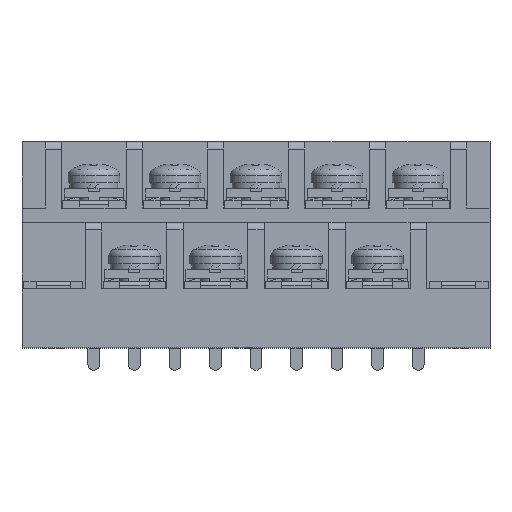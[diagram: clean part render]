
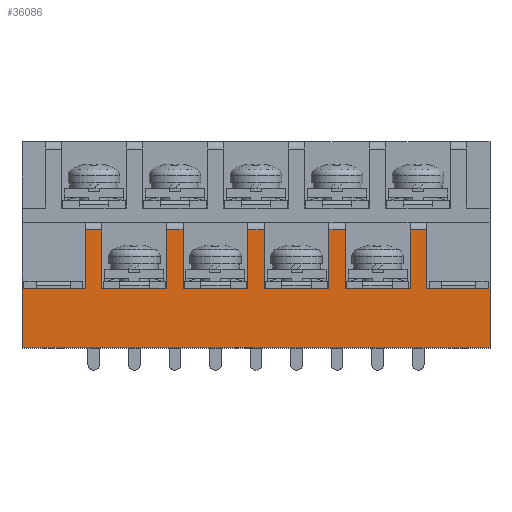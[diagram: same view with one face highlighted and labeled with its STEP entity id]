
A CAD part, top view. The second image highlights one B-rep face of the part: STEP entity #36086.
In plain terms, the highlighted planar face has unit normal (0, 0, 1).
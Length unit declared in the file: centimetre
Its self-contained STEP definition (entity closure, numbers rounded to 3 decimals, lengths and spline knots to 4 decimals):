
#2243=VERTEX_POINT('',#47938);
#2246=VERTEX_POINT('',#47944);
#2248=VERTEX_POINT('',#47950);
#2249=VERTEX_POINT('',#47954);
#2286=VERTEX_POINT('',#48062);
#2287=VERTEX_POINT('',#48066);
#2293=VERTEX_POINT('',#48080);
#2461=VERTEX_POINT('',#48598);
#2472=VERTEX_POINT('',#48631);
#2475=VERTEX_POINT('',#48637);
#2477=VERTEX_POINT('',#48643);
#2478=VERTEX_POINT('',#48647);
#2515=VERTEX_POINT('',#48755);
#2516=VERTEX_POINT('',#48756);
#2517=VERTEX_POINT('',#48759);
#2518=VERTEX_POINT('',#48761);
#2519=VERTEX_POINT('',#48763);
#2520=VERTEX_POINT('',#48765);
#2521=VERTEX_POINT('',#48767);
#2522=VERTEX_POINT('',#48769);
#2523=VERTEX_POINT('',#48771);
#2524=VERTEX_POINT('',#48773);
#2525=VERTEX_POINT('',#48775);
#2526=VERTEX_POINT('',#48777);
#6026=VECTOR('',#40058,1.);
#6028=VECTOR('',#40064,1.);
#6030=VECTOR('',#40067,1.);
#6074=VECTOR('',#40150,1.);
#6076=VECTOR('',#40153,1.);
#6083=VECTOR('',#40163,1.);
#6264=VECTOR('',#40530,1.);
#6280=VECTOR('',#40561,1.);
#6282=VECTOR('',#40567,1.);
#6284=VECTOR('',#40570,1.);
#6327=VECTOR('',#40652,1.);
#6328=VECTOR('',#40653,1.);
#6329=VECTOR('',#40654,1.);
#6330=VECTOR('',#40655,1.);
#6331=VECTOR('',#40656,1.);
#6332=VECTOR('',#40657,1.);
#6333=VECTOR('',#40658,1.);
#6334=VECTOR('',#40659,1.);
#6335=VECTOR('',#40660,1.);
#6336=VECTOR('',#40661,1.);
#6337=VECTOR('',#40662,1.);
#6338=VECTOR('',#40663,1.);
#6339=VECTOR('',#40664,1.);
#6340=VECTOR('',#40665,1.);
#10291=LINE('',#47945,#6026);
#10293=LINE('',#47951,#6028);
#10295=LINE('',#47956,#6030);
#10339=LINE('',#48063,#6074);
#10341=LINE('',#48068,#6076);
#10348=LINE('',#48082,#6083);
#10529=LINE('',#48597,#6264);
#10545=LINE('',#48638,#6280);
#10547=LINE('',#48644,#6282);
#10549=LINE('',#48649,#6284);
#10592=LINE('',#48754,#6327);
#10593=LINE('',#48757,#6328);
#10594=LINE('',#48758,#6329);
#10595=LINE('',#48760,#6330);
#10596=LINE('',#48762,#6331);
#10597=LINE('',#48764,#6332);
#10598=LINE('',#48766,#6333);
#10599=LINE('',#48768,#6334);
#10600=LINE('',#48770,#6335);
#10601=LINE('',#48772,#6336);
#10602=LINE('',#48774,#6337);
#10603=LINE('',#48776,#6338);
#10604=LINE('',#48778,#6339);
#10605=LINE('',#48779,#6340);
#14659=EDGE_CURVE('',#2243,#2246,#10291,.T.);
#14662=EDGE_CURVE('',#2248,#2246,#10293,.T.);
#14664=EDGE_CURVE('',#2249,#2248,#10295,.T.);
#14717=EDGE_CURVE('',#2286,#2249,#10339,.T.);
#14719=EDGE_CURVE('',#2286,#2287,#10341,.T.);
#14727=EDGE_CURVE('',#2243,#2293,#10348,.T.);
#14973=EDGE_CURVE('',#2293,#2461,#10529,.T.);
#14993=EDGE_CURVE('',#2472,#2475,#10545,.T.);
#14996=EDGE_CURVE('',#2477,#2475,#10547,.T.);
#14998=EDGE_CURVE('',#2478,#2477,#10549,.T.);
#15050=EDGE_CURVE('',#2515,#2516,#10592,.T.);
#15051=EDGE_CURVE('',#2472,#2516,#10593,.T.);
#15052=EDGE_CURVE('',#2517,#2478,#10594,.T.);
#15053=EDGE_CURVE('',#2517,#2518,#10595,.T.);
#15054=EDGE_CURVE('',#2519,#2518,#10596,.T.);
#15055=EDGE_CURVE('',#2520,#2519,#10597,.T.);
#15056=EDGE_CURVE('',#2521,#2520,#10598,.T.);
#15057=EDGE_CURVE('',#2521,#2522,#10599,.T.);
#15058=EDGE_CURVE('',#2523,#2522,#10600,.T.);
#15059=EDGE_CURVE('',#2524,#2523,#10601,.T.);
#15060=EDGE_CURVE('',#2525,#2524,#10602,.T.);
#15061=EDGE_CURVE('',#2525,#2526,#10603,.T.);
#15062=EDGE_CURVE('',#2461,#2526,#10604,.T.);
#15063=EDGE_CURVE('',#2287,#2515,#10605,.T.);
#21454=ORIENTED_EDGE('',*,*,#15050,.T.);
#21455=ORIENTED_EDGE('',*,*,#15051,.F.);
#21456=ORIENTED_EDGE('',*,*,#14993,.T.);
#21457=ORIENTED_EDGE('',*,*,#14996,.F.);
#21458=ORIENTED_EDGE('',*,*,#14998,.F.);
#21459=ORIENTED_EDGE('',*,*,#15052,.F.);
#21460=ORIENTED_EDGE('',*,*,#15053,.T.);
#21461=ORIENTED_EDGE('',*,*,#15054,.F.);
#21462=ORIENTED_EDGE('',*,*,#15055,.F.);
#21463=ORIENTED_EDGE('',*,*,#15056,.F.);
#21464=ORIENTED_EDGE('',*,*,#15057,.T.);
#21465=ORIENTED_EDGE('',*,*,#15058,.F.);
#21466=ORIENTED_EDGE('',*,*,#15059,.F.);
#21467=ORIENTED_EDGE('',*,*,#15060,.F.);
#21468=ORIENTED_EDGE('',*,*,#15061,.T.);
#21469=ORIENTED_EDGE('',*,*,#15062,.F.);
#21470=ORIENTED_EDGE('',*,*,#14973,.F.);
#21471=ORIENTED_EDGE('',*,*,#14727,.F.);
#21472=ORIENTED_EDGE('',*,*,#14659,.T.);
#21473=ORIENTED_EDGE('',*,*,#14662,.F.);
#21474=ORIENTED_EDGE('',*,*,#14664,.F.);
#21475=ORIENTED_EDGE('',*,*,#14717,.F.);
#21476=ORIENTED_EDGE('',*,*,#14719,.T.);
#21477=ORIENTED_EDGE('',*,*,#15063,.T.);
#31436=EDGE_LOOP('',(#21454,#21455,#21456,#21457,#21458,#21459,#21460,#21461,
#21462,#21463,#21464,#21465,#21466,#21467,#21468,#21469,#21470,#21471,#21472,
#21473,#21474,#21475,#21476,#21477));
#33779=FACE_BOUND('',#31436,.T.);
#36086=ADVANCED_FACE('',(#33779),#38166,.T.);
#38166=PLANE('',#61609);
#40058=DIRECTION('',(0.,1.,0.));
#40064=DIRECTION('',(1.,0.,0.));
#40067=DIRECTION('',(0.,1.,0.));
#40150=DIRECTION('',(1.,0.,0.));
#40153=DIRECTION('',(0.,-1.,0.));
#40163=DIRECTION('',(1.,0.,0.));
#40530=DIRECTION('',(0.,1.,0.));
#40561=DIRECTION('',(0.,1.,0.));
#40567=DIRECTION('',(1.,0.,0.));
#40570=DIRECTION('',(0.,1.,0.));
#40651=DIRECTION('',(0.,0.,1.));
#40652=DIRECTION('',(0.,1.,0.));
#40653=DIRECTION('',(1.,0.,0.));
#40654=DIRECTION('',(1.,0.,0.));
#40655=DIRECTION('',(0.,1.,0.));
#40656=DIRECTION('',(1.,0.,0.));
#40657=DIRECTION('',(0.,1.,0.));
#40658=DIRECTION('',(1.,0.,0.));
#40659=DIRECTION('',(0.,1.,0.));
#40660=DIRECTION('',(1.,0.,0.));
#40661=DIRECTION('',(0.,1.,0.));
#40662=DIRECTION('',(1.,0.,0.));
#40663=DIRECTION('',(0.,1.,0.));
#40664=DIRECTION('',(1.,0.,0.));
#40665=DIRECTION('',(1.,0.,0.));
#47938=CARTESIAN_POINT('',(-2.09,-1.245,1.75));
#47944=CARTESIAN_POINT('',(-2.09,-0.445,1.75));
#47945=CARTESIAN_POINT('',(-2.09,-2.045,1.75));
#47950=CARTESIAN_POINT('',(-2.31,-0.445,1.75));
#47951=CARTESIAN_POINT('',(-2.31,-0.445,1.75));
#47954=CARTESIAN_POINT('',(-2.31,-1.245,1.75));
#47956=CARTESIAN_POINT('',(-2.31,-2.045,1.75));
#48062=CARTESIAN_POINT('',(-3.175,-1.245,1.75));
#48063=CARTESIAN_POINT('',(-3.175,-1.245,1.75));
#48066=CARTESIAN_POINT('',(-3.175,-2.045,1.75));
#48068=CARTESIAN_POINT('',(-3.175,-1.245,1.75));
#48080=CARTESIAN_POINT('',(-1.21,-1.245,1.75));
#48082=CARTESIAN_POINT('',(-2.09,-1.245,1.75));
#48597=CARTESIAN_POINT('',(-1.21,-2.045,1.75));
#48598=CARTESIAN_POINT('',(-1.21,-0.445,1.75));
#48631=CARTESIAN_POINT('',(2.31,-1.245,1.75));
#48637=CARTESIAN_POINT('',(2.31,-0.445,1.75));
#48638=CARTESIAN_POINT('',(2.31,-2.045,1.75));
#48643=CARTESIAN_POINT('',(2.09,-0.445,1.75));
#48644=CARTESIAN_POINT('',(2.09,-0.445,1.75));
#48647=CARTESIAN_POINT('',(2.09,-1.245,1.75));
#48649=CARTESIAN_POINT('',(2.09,-2.045,1.75));
#48753=CARTESIAN_POINT('',(2.31,-1.645,1.75));
#48754=CARTESIAN_POINT('',(3.175,-1.245,1.75));
#48755=CARTESIAN_POINT('',(3.175,-2.045,1.75));
#48756=CARTESIAN_POINT('',(3.175,-1.245,1.75));
#48757=CARTESIAN_POINT('',(2.31,-1.245,1.75));
#48758=CARTESIAN_POINT('',(1.21,-1.245,1.75));
#48759=CARTESIAN_POINT('',(1.21,-1.245,1.75));
#48760=CARTESIAN_POINT('',(1.21,-2.045,1.75));
#48761=CARTESIAN_POINT('',(1.21,-0.445,1.75));
#48762=CARTESIAN_POINT('',(0.99,-0.445,1.75));
#48763=CARTESIAN_POINT('',(0.99,-0.445,1.75));
#48764=CARTESIAN_POINT('',(0.99,-2.045,1.75));
#48765=CARTESIAN_POINT('',(0.99,-1.245,1.75));
#48766=CARTESIAN_POINT('',(0.11,-1.245,1.75));
#48767=CARTESIAN_POINT('',(0.11,-1.245,1.75));
#48768=CARTESIAN_POINT('',(0.11,-2.045,1.75));
#48769=CARTESIAN_POINT('',(0.11,-0.445,1.75));
#48770=CARTESIAN_POINT('',(-0.11,-0.445,1.75));
#48771=CARTESIAN_POINT('',(-0.11,-0.445,1.75));
#48772=CARTESIAN_POINT('',(-0.11,-2.045,1.75));
#48773=CARTESIAN_POINT('',(-0.11,-1.245,1.75));
#48774=CARTESIAN_POINT('',(-0.99,-1.245,1.75));
#48775=CARTESIAN_POINT('',(-0.99,-1.245,1.75));
#48776=CARTESIAN_POINT('',(-0.99,-2.045,1.75));
#48777=CARTESIAN_POINT('',(-0.99,-0.445,1.75));
#48778=CARTESIAN_POINT('',(-1.21,-0.445,1.75));
#48779=CARTESIAN_POINT('',(-0.99,-2.045,1.75));
#61609=AXIS2_PLACEMENT_3D('',#48753,#40651,$);
